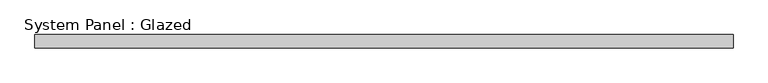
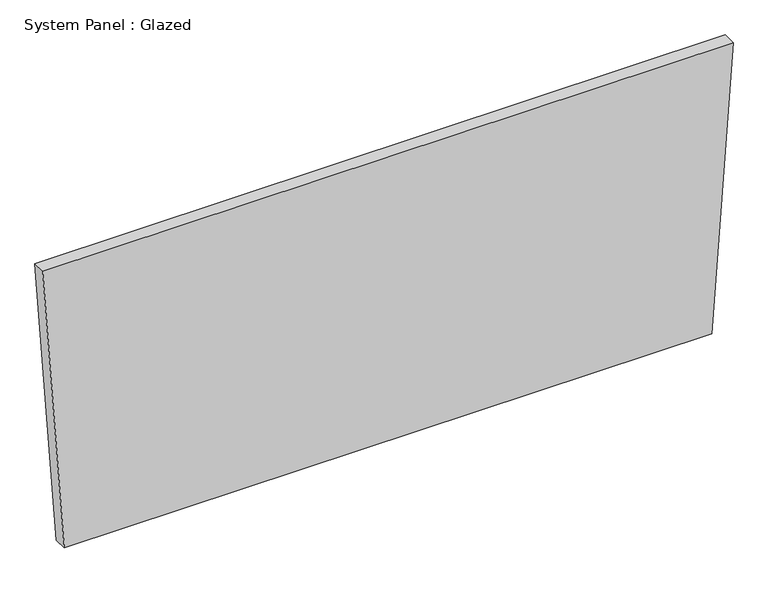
"""IFC4 building model written with IfcOpenShell, lengths in millimetres: plate geometry, System Panel : Glazed."""

import ifcopenshell
import ifcopenshell.guid

model = None  # the IFC model being written
_history = None  # IfcOwnerHistory: only IFC2X3 demands one
_inside = {}  # id of a spatial element -> (the spatial element, [elements in it])
_under = {}  # id of a project, library or spatial element -> (it, [spatial elements below it])
_declared = {}  # id of a project -> (the project, [libraries it declares])
_typed = {}  # id of a type object -> (the type object, [elements of that type])
_made_of = {}  # id of a material, layer set ... -> (it, [elements and type objects made of it])


def new_model(schema):
    """Start an empty IFC model of exactly this schema.

    Asked for "IFC4X3", IfcOpenShell would pick the latest addendum, in which some entities
    have other attributes; the version numbers below select the first issue.
    IFC2X3 requires an IfcOwnerHistory on every rooted entity: one is made here for all.
    """
    global model, _history
    if schema == "IFC4X3":
        model = ifcopenshell.file(schema_version=(4, 3, 0, 0))
    else:
        model = ifcopenshell.file(schema=schema)
    _inside.clear()
    _under.clear()
    _declared.clear()
    _typed.clear()
    _made_of.clear()
    _history = None
    if model.schema == "IFC2X3":
        org = make("IfcOrganization", Name="unknown")
        user = make(
            "IfcPersonAndOrganization",
            ThePerson=make("IfcPerson", FamilyName="unknown"),
            TheOrganization=org,
        )
        app = make(
            "IfcApplication",
            ApplicationDeveloper=org,
            Version="unknown",
            ApplicationFullName="unknown",
            ApplicationIdentifier="unknown",
        )
        _history = make(
            "IfcOwnerHistory",
            OwningUser=user,
            OwningApplication=app,
            ChangeAction="ADDED",
            CreationDate=0,
        )
    return model


def make(cls, **values):
    """One entity of the class cls with the attributes given. An attribute that is None is left unset."""
    return model.create_entity(
        cls, **{name: value for name, value in values.items() if value is not None}
    )


def rooted(cls, **values):
    """An entity with a GlobalId (a new one), such as an element, a storey or a relation."""
    return make(cls, GlobalId=ifcopenshell.guid.new(), OwnerHistory=_history, **values)


def si_unit(unit_type, name, prefix=None):
    """IfcSIUnit, for example si_unit("LENGTHUNIT", "METRE", prefix="MILLI")."""
    return make("IfcSIUnit", UnitType=unit_type, Prefix=prefix, Name=name)


def assignment(units):
    """IfcUnitAssignment: the units of a project."""
    return None if units is None else make("IfcUnitAssignment", Units=units)


def point(xyz):
    """IfcCartesianPoint."""
    return None if xyz is None else make("IfcCartesianPoint", Coordinates=xyz)


def direction(xyz):
    """IfcDirection."""
    return None if xyz is None else make("IfcDirection", DirectionRatios=xyz)


def frame(location, z_axis=None, x_axis=None):
    """IfcAxis2Placement3D, a coordinate frame: its origin and axes. An axis left out is left unset."""
    return make(
        "IfcAxis2Placement3D",
        Location=point(location),
        Axis=direction(z_axis),
        RefDirection=direction(x_axis),
    )


def origin():
    """The frame at (0, 0, 0) with its axes left unset."""
    return frame((0.0, 0.0, 0.0))


def place(relative_to, where):
    """IfcLocalPlacement: puts the frame where relative to a parent placement (None: the world)."""
    return make(
        "IfcLocalPlacement", PlacementRelTo=relative_to, RelativePlacement=where
    )


def context(
    kind, dimensions, precision=None, world=None, true_north=None, identifier=None
):
    """IfcGeometricRepresentationContext, for example the 3D "Model" context."""
    return make(
        "IfcGeometricRepresentationContext",
        ContextIdentifier=identifier,
        ContextType=kind,
        CoordinateSpaceDimension=dimensions,
        Precision=precision,
        WorldCoordinateSystem=world,
        TrueNorth=true_north,
    )


def project(units=None, contexts=None):
    """IfcProject with its units and contexts."""
    return rooted(
        "IfcProject",
        Name="project",
        RepresentationContexts=contexts,
        UnitsInContext=assignment(units),
    )


def spatial(cls, under=None, at=None, **own):
    """A site, building, storey or space (cls), placed at a placement, below another one or the project."""
    s = rooted(cls, ObjectPlacement=at, **own)
    if under is not None:
        _under.setdefault(under.id(), (under, []))[1].append(s)
    return s


def polyline(points):
    """IfcPolyline through the points."""
    return make("IfcPolyline", Points=[point(p) for p in points])


def outline(outer, holes=None, kind="AREA"):
    """IfcArbitraryClosedProfileDef: a profile drawn as a closed curve; with holes, ...WithVoids."""
    if holes is None:
        return make("IfcArbitraryClosedProfileDef", ProfileType=kind, OuterCurve=outer)
    return make(
        "IfcArbitraryProfileDefWithVoids",
        ProfileType=kind,
        OuterCurve=outer,
        InnerCurves=holes,
    )


def extrude(swept, where, along, depth):
    """IfcExtrudedAreaSolid: the profile swept, set in the frame where, extruded along a direction by depth."""
    return make(
        "IfcExtrudedAreaSolid",
        SweptArea=swept,
        Position=where,
        ExtrudedDirection=direction(along),
        Depth=depth,
    )


def shape(context_of_items, identifier, shape_type, items):
    """IfcShapeRepresentation: the items that make up one representation, for example the "Body"."""
    return make(
        "IfcShapeRepresentation",
        ContextOfItems=context_of_items,
        RepresentationIdentifier=identifier,
        RepresentationType=shape_type,
        Items=items,
    )


def source(mapping_origin, context_of_items, identifier, shape_type, items):
    """IfcRepresentationMap: a shape defined once, which mapped items show again and again."""
    return make(
        "IfcRepresentationMap",
        MappingOrigin=mapping_origin,
        MappedRepresentation=shape(context_of_items, identifier, shape_type, items),
    )


def transform(
    local_origin,
    x_axis=None,
    y_axis=None,
    z_axis=None,
    scale=None,
    scale2=None,
    scale3=None,
    uniform=True,
):
    """IfcCartesianTransformationOperator3D, or its non-uniform kind. x_axis, y_axis, z_axis: its Axis1, 2, 3."""
    if uniform:
        return make(
            "IfcCartesianTransformationOperator3D",
            Axis1=direction(x_axis),
            Axis2=direction(y_axis),
            LocalOrigin=point(local_origin),
            Scale=scale,
            Axis3=direction(z_axis),
        )
    return make(
        "IfcCartesianTransformationOperator3DnonUniform",
        Axis1=direction(x_axis),
        Axis2=direction(y_axis),
        LocalOrigin=point(local_origin),
        Scale=scale,
        Axis3=direction(z_axis),
        Scale2=scale2,
        Scale3=scale3,
    )


def mapped(mapping_source, mapping_target):
    """IfcMappedItem: shows the shape of a source again, moved by a transform."""
    return make(
        "IfcMappedItem", MappingSource=mapping_source, MappingTarget=mapping_target
    )


def made_of(thing, what):
    """Note that an element or type object is made of a material, layer set ...; save() writes the relation."""
    if what is not None:
        _made_of.setdefault(what.id(), (what, []))[1].append(thing)
    return thing


def element(
    cls,
    number,
    at=None,
    inside=None,
    cuts=None,
    type_object=None,
    material=None,
    context=None,
    identifier="Body",
    shape_type=None,
    held_by="IfcProductDefinitionShape",
    body=None,
    shapes=None,
    **own,
):
    """One element of the class cls, such as IfcWall. Its Tag is "e" and its number.

    at: its placement. inside: the storey or other place that contains it. cuts: it is an
    opening in that element (IfcRelVoidsElement). A single representation is given by context,
    identifier, shape_type and body (its items); several are given by shapes. held_by: the class
    of the entity that holds the representations. save() writes the other relations.
    """
    e = rooted(cls, Tag="e%d" % number, ObjectPlacement=at, **own)
    if body is not None:
        shapes = [shape(context, identifier, shape_type, body)]
    if shapes is not None:
        e.Representation = make(held_by, Representations=shapes)
    if inside is not None:
        _inside.setdefault(inside.id(), (inside, []))[1].append(e)
    if cuts is not None:
        rooted(
            "IfcRelVoidsElement", RelatingBuildingElement=cuts, RelatedOpeningElement=e
        )
    if type_object is not None:
        _typed.setdefault(type_object.id(), (type_object, []))[1].append(e)
    return made_of(e, material)


def aggregate(whole, parts):
    """IfcRelAggregates: a whole, such as a stair, and the parts it consists of."""
    return rooted("IfcRelAggregates", RelatingObject=whole, RelatedObjects=parts)


def save(model, path):
    """Write the relations noted so far, then the file.

    IfcRelAggregates (storeys below a building ...), IfcRelContainedInSpatialStructure (elements
    in a storey), IfcRelDefinesByType, IfcRelAssociatesMaterial and IfcRelDeclares: one each for
    every whole, place, type object, material and project.
    """
    for whole, parts in _under.values():
        aggregate(whole, parts)
    for where, things in _inside.values():
        rooted(
            "IfcRelContainedInSpatialStructure",
            RelatedElements=things,
            RelatingStructure=where,
        )
    for kind, things in _typed.values():
        rooted("IfcRelDefinesByType", RelatedObjects=things, RelatingType=kind)
    for what, things in _made_of.values():
        rooted("IfcRelAssociatesMaterial", RelatedObjects=things, RelatingMaterial=what)
    for by, libraries in _declared.values():
        rooted("IfcRelDeclares", RelatingContext=by, RelatedDefinitions=libraries)
    model.write(path)


def system_panel_glazed_135ae039(model_context):
    return source(origin(), model_context, "Body", "SweptSolid", [
        extrude(outline(polyline([(0.0, -614.7988464), (0.0, 614.7988464), (569.9295835, 655.7872981), (569.9295835, -655.7872981), (0.0, -614.7988464)])), frame((0.0, -44.45, 0.0), z_axis=(0.0, 1.0, 0.0), x_axis=(0.0, 0.0, 1.0)), (0.0, 0.0, 1.0), 25.4),
    ])


if __name__ == "__main__":
    model = new_model("IFC4")
    model_context = context("Model", 3, world=origin())
    ifc_project = project(units=[si_unit("LENGTHUNIT", "METRE", prefix="MILLI")], contexts=[model_context])
    site = spatial("IfcSite", under=ifc_project)
    building = spatial("IfcBuilding", under=site)
    placement = place(None, origin())
    system_panel_glazed_shape = system_panel_glazed_135ae039(model_context)
    element("IfcPlate", 1, ObjectType="System Panel : Glazed", at=placement, inside=building, context=model_context, shape_type="MappedRepresentation", body=[
        mapped(system_panel_glazed_shape, transform((0.0, 0.0, 0.0), x_axis=(1.0, 0.0, 0.0), y_axis=(0.0, 1.0, 0.0), z_axis=(0.0, 0.0, 1.0))),
    ])
    save(model, "model.ifc")
